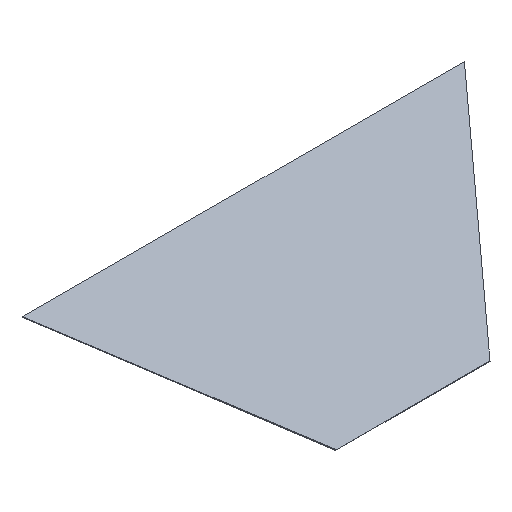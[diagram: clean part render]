
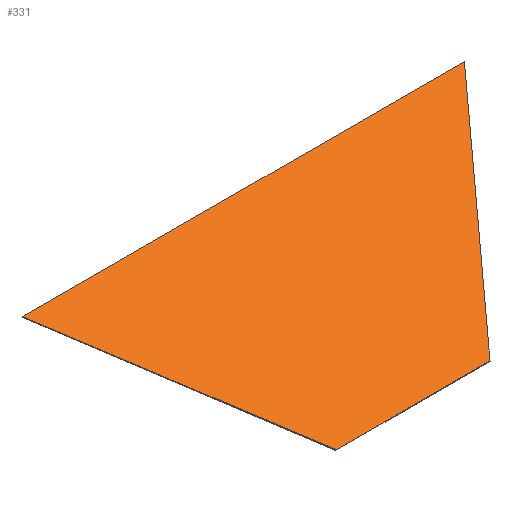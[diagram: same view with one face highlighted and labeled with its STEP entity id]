
A CAD part, isometric view. The second image highlights one B-rep face of the part: STEP entity #331.
In plain terms, the highlighted planar face has unit normal (0, -0.517, 0.856).
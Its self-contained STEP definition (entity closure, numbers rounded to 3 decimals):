
#22 = VERTEX_POINT('',#23);
#23 = CARTESIAN_POINT('',(600.,400.,1600.));
#32 = PLANE('',#33);
#33 = AXIS2_PLACEMENT_3D('',#34,#35,#36);
#34 = CARTESIAN_POINT('',(600.,400.,1600.));
#35 = DIRECTION('',(0.,0.856,0.517));
#36 = DIRECTION('',(-1.,0.,0.));
#44 = PLANE('',#45);
#45 = AXIS2_PLACEMENT_3D('',#46,#47,#48);
#46 = CARTESIAN_POINT('',(1725.,1725.,2400.));
#47 = DIRECTION('',(-0.809,0.503,0.304));
#48 = DIRECTION('',(-0.588,-0.692,-0.418));
#85 = VERTEX_POINT('',#86);
#86 = CARTESIAN_POINT('',(-600.,400.,1600.));
#100 = PLANE('',#101);
#101 = AXIS2_PLACEMENT_3D('',#102,#103,#104);
#102 = CARTESIAN_POINT('',(-600.,400.,1600.));
#103 = DIRECTION('',(0.809,0.503,0.304));
#104 = DIRECTION('',(-0.588,0.692,0.418));
#112 = EDGE_CURVE('',#22,#85,#113,.T.);
#113 = SURFACE_CURVE('',#114,(#118,#125),.PCURVE_S1.);
#114 = LINE('',#115,#116);
#115 = CARTESIAN_POINT('',(600.,400.,1600.));
#116 = VECTOR('',#117,1.);
#117 = DIRECTION('',(-1.,0.,0.));
#118 = PCURVE('',#32,#119);
#119 = DEFINITIONAL_REPRESENTATION('',(#120),#124);
#120 = LINE('',#121,#122);
#121 = CARTESIAN_POINT('',(0.,0.));
#122 = VECTOR('',#123,1.);
#123 = DIRECTION('',(1.,0.));
#124 = ( GEOMETRIC_REPRESENTATION_CONTEXT(2) 
PARAMETRIC_REPRESENTATION_CONTEXT() REPRESENTATION_CONTEXT('2D SPACE',''
  ) );
#125 = PCURVE('',#126,#131);
#126 = PLANE('',#127);
#127 = AXIS2_PLACEMENT_3D('',#128,#129,#130);
#128 = CARTESIAN_POINT('',(0.,1238.346,
    2106.171));
#129 = DIRECTION('',(-0.,0.517,-0.856));
#130 = DIRECTION('',(0.,-0.856,-0.517));
#131 = DEFINITIONAL_REPRESENTATION('',(#132),#136);
#132 = LINE('',#133,#134);
#133 = CARTESIAN_POINT('',(979.302,-600.));
#134 = VECTOR('',#135,1.);
#135 = DIRECTION('',(-0.,1.));
#136 = ( GEOMETRIC_REPRESENTATION_CONTEXT(2) 
PARAMETRIC_REPRESENTATION_CONTEXT() REPRESENTATION_CONTEXT('2D SPACE',''
  ) );
#166 = VERTEX_POINT('',#167);
#167 = CARTESIAN_POINT('',(-1725.,1725.,2400.));
#181 = PLANE('',#182);
#182 = AXIS2_PLACEMENT_3D('',#183,#184,#185);
#183 = CARTESIAN_POINT('',(-1725.,1725.,2400.));
#184 = DIRECTION('',(0.,-0.856,-0.517));
#185 = DIRECTION('',(1.,0.,0.));
#193 = EDGE_CURVE('',#85,#166,#194,.T.);
#194 = SURFACE_CURVE('',#195,(#199,#206),.PCURVE_S1.);
#195 = LINE('',#196,#197);
#196 = CARTESIAN_POINT('',(-600.,400.,1600.));
#197 = VECTOR('',#198,1.);
#198 = DIRECTION('',(-0.588,0.692,0.418));
#199 = PCURVE('',#100,#200);
#200 = DEFINITIONAL_REPRESENTATION('',(#201),#205);
#201 = LINE('',#202,#203);
#202 = CARTESIAN_POINT('',(0.,0.));
#203 = VECTOR('',#204,1.);
#204 = DIRECTION('',(1.,0.));
#205 = ( GEOMETRIC_REPRESENTATION_CONTEXT(2) 
PARAMETRIC_REPRESENTATION_CONTEXT() REPRESENTATION_CONTEXT('2D SPACE',''
  ) );
#206 = PCURVE('',#126,#207);
#207 = DEFINITIONAL_REPRESENTATION('',(#208),#212);
#208 = LINE('',#209,#210);
#209 = CARTESIAN_POINT('',(979.302,600.));
#210 = VECTOR('',#211,1.);
#211 = DIRECTION('',(-0.809,0.588));
#212 = ( GEOMETRIC_REPRESENTATION_CONTEXT(2) 
PARAMETRIC_REPRESENTATION_CONTEXT() REPRESENTATION_CONTEXT('2D SPACE',''
  ) );
#242 = VERTEX_POINT('',#243);
#243 = CARTESIAN_POINT('',(1725.,1725.,2400.));
#264 = EDGE_CURVE('',#166,#242,#265,.T.);
#265 = SURFACE_CURVE('',#266,(#270,#277),.PCURVE_S1.);
#266 = LINE('',#267,#268);
#267 = CARTESIAN_POINT('',(-1725.,1725.,2400.));
#268 = VECTOR('',#269,1.);
#269 = DIRECTION('',(1.,0.,0.));
#270 = PCURVE('',#181,#271);
#271 = DEFINITIONAL_REPRESENTATION('',(#272),#276);
#272 = LINE('',#273,#274);
#273 = CARTESIAN_POINT('',(0.,0.));
#274 = VECTOR('',#275,1.);
#275 = DIRECTION('',(1.,0.));
#276 = ( GEOMETRIC_REPRESENTATION_CONTEXT(2) 
PARAMETRIC_REPRESENTATION_CONTEXT() REPRESENTATION_CONTEXT('2D SPACE',''
  ) );
#277 = PCURVE('',#126,#278);
#278 = DEFINITIONAL_REPRESENTATION('',(#279),#283);
#279 = LINE('',#280,#281);
#280 = CARTESIAN_POINT('',(-568.478,1725.));
#281 = VECTOR('',#282,1.);
#282 = DIRECTION('',(0.,-1.));
#283 = ( GEOMETRIC_REPRESENTATION_CONTEXT(2) 
PARAMETRIC_REPRESENTATION_CONTEXT() REPRESENTATION_CONTEXT('2D SPACE',''
  ) );
#311 = EDGE_CURVE('',#242,#22,#312,.T.);
#312 = SURFACE_CURVE('',#313,(#317,#324),.PCURVE_S1.);
#313 = LINE('',#314,#315);
#314 = CARTESIAN_POINT('',(1725.,1725.,2400.));
#315 = VECTOR('',#316,1.);
#316 = DIRECTION('',(-0.588,-0.692,-0.418));
#317 = PCURVE('',#44,#318);
#318 = DEFINITIONAL_REPRESENTATION('',(#319),#323);
#319 = LINE('',#320,#321);
#320 = CARTESIAN_POINT('',(-0.,0.));
#321 = VECTOR('',#322,1.);
#322 = DIRECTION('',(1.,0.));
#323 = ( GEOMETRIC_REPRESENTATION_CONTEXT(2) 
PARAMETRIC_REPRESENTATION_CONTEXT() REPRESENTATION_CONTEXT('2D SPACE',''
  ) );
#324 = PCURVE('',#126,#325);
#325 = DEFINITIONAL_REPRESENTATION('',(#326),#330);
#326 = LINE('',#327,#328);
#327 = CARTESIAN_POINT('',(-568.478,-1725.));
#328 = VECTOR('',#329,1.);
#329 = DIRECTION('',(0.809,0.588));
#330 = ( GEOMETRIC_REPRESENTATION_CONTEXT(2) 
PARAMETRIC_REPRESENTATION_CONTEXT() REPRESENTATION_CONTEXT('2D SPACE',''
  ) );
#331 = ADVANCED_FACE('',(#332),#126,.F.);
#332 = FACE_BOUND('',#333,.F.);
#333 = EDGE_LOOP('',(#334,#335,#336,#337));
#334 = ORIENTED_EDGE('',*,*,#112,.T.);
#335 = ORIENTED_EDGE('',*,*,#193,.T.);
#336 = ORIENTED_EDGE('',*,*,#264,.T.);
#337 = ORIENTED_EDGE('',*,*,#311,.T.);
